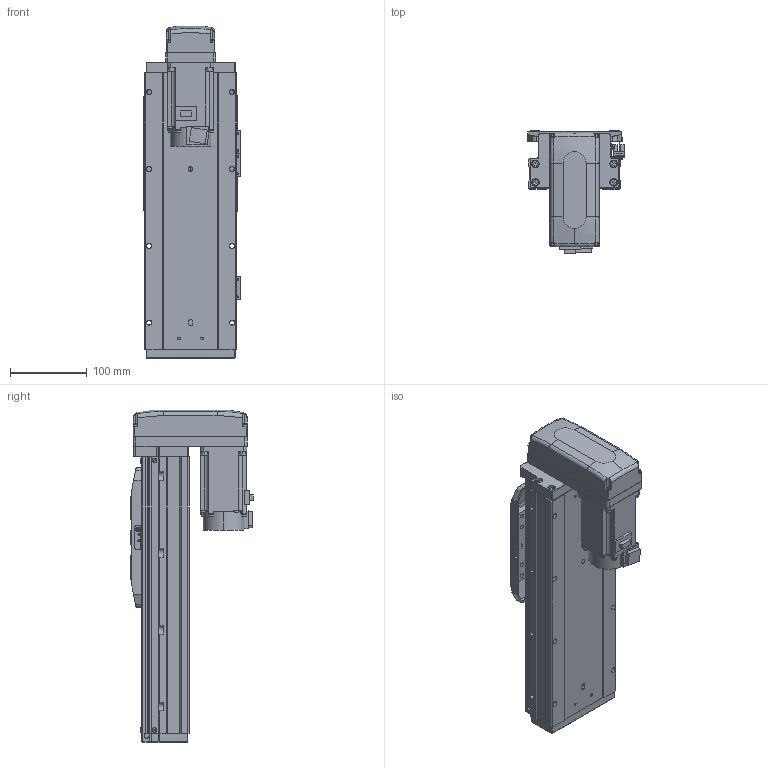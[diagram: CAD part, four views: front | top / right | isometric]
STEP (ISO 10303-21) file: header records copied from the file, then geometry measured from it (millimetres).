
FILE_DESCRIPTION (( 'STEP AP203' ), '1' );
FILE_NAME ('GTH12-150-BM-M40-C4.step', '2022-09-29T02:00:22', ( '微软用户' ), ( '微软中国' ), 'SwSTEP 2.0', 'SolidWorks 2020', '' );
FILE_SCHEMA (( 'CONFIG_CONTROL_DESIGN' ));
Length unit declared in the file: millimetre
Products named in the file (18): GBT 70.1-M3℅6; GBT96.1-2002 3×0.8; GBT 70.1-M5×16; BTH-M3X5X6; GTH120-001_150; GBT 70.3-M3℅8; hg-kn43j_-s100_; GTH120-003; GTH80-022; CTHA86-033_M40B; GTH120-006; GTH80-028; GTH120-027-1_GTH120-027-2; GTH120-004; GTH50-023; GTH12-150-BM-M40-C4; GTH120-013; GTH50-024
Assembly tree (59 placements, depth 2):
  GTH12-150-BM-M40-C4
    GTH120-001_150
    GTH120-003
    GTH120-006
    GTH120-004
    GTH120-013
    GBT 70.1-M3℅6  x14
    GBT 70.1-M5×16  x10
    GBT 70.3-M3℅8  x4
    GTH80-022
    GTH80-028  x2
    GTH50-023  x3
    GTH50-024  x3
    GBT96.1-2002 3×0.8  x6
    BTH-M3X5X6  x8
    hg-kn43j_-s100_
    CTHA86-033_M40B
    GTH120-027-1_GTH120-027-2
Bounding box: 125.7 x 159.8 x 432 mm (x, y, z)
Volume: 3604017.4 mm3; surface area: 416981.3 mm2
Topology: 61 solids, 61 shells, 2336 faces, 5411 edges, 3317 vertices
Faces by surface type: plane 1222, cylinder 654, cone 272, torus 174, sphere 8, bspline 6
Entity records: 42273 total; most frequent: CARTESIAN_POINT 7194, DIRECTION 6939, ORIENTED_EDGE 6432, EDGE_CURVE 3216, AXIS2_PLACEMENT_3D 2427, VECTOR 2085, LINE 2085, VERTEX_POINT 2038
